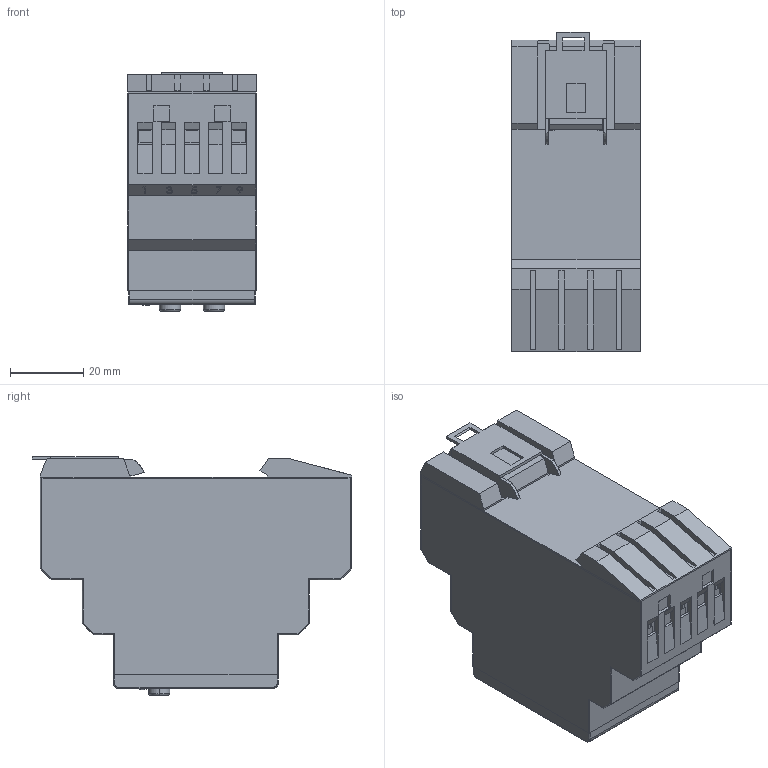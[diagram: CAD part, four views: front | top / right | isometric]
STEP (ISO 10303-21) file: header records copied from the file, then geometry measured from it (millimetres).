
FILE_DESCRIPTION(('STEP AP214'),'2;1');
FILE_NAME('KFE_LCD_260110-skin-OK.stp','2010-02-17T16:17:19',(''),(''),'2007.1.106','THINKDESIGN','');
FILE_SCHEMA(('AUTOMOTIVE_DESIGN'));
Products named in the file (1): None
Bounding box: 35 x 87.1 x 65.2 mm (x, y, z)
Surface area: 30593.4 mm2 (no closed solid volume)
Topology: 0 solids, 0 shells, 846 faces, 4541 edges, 4541 vertices
Faces by surface type: plane 580, cylinder 156, bspline 110
Entity records: 54185 total; most frequent: CARTESIAN_POINT 22183, DIRECTION 5271, COMPOSITE_CURVE_SEGMENT 4541, TRIMMED_CURVE 3540, VECTOR 3281, LINE 3281, AXIS2_PLACEMENT_3D 995, OUTER_BOUNDARY_CURVE 846
